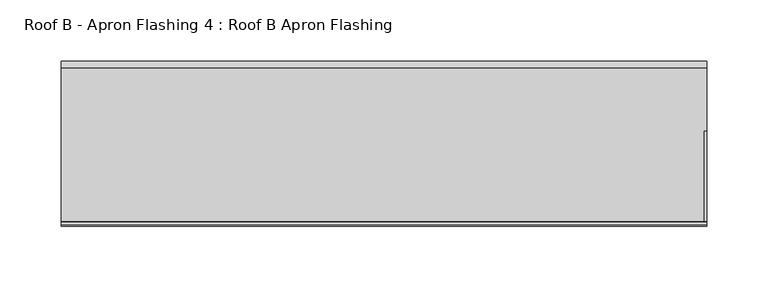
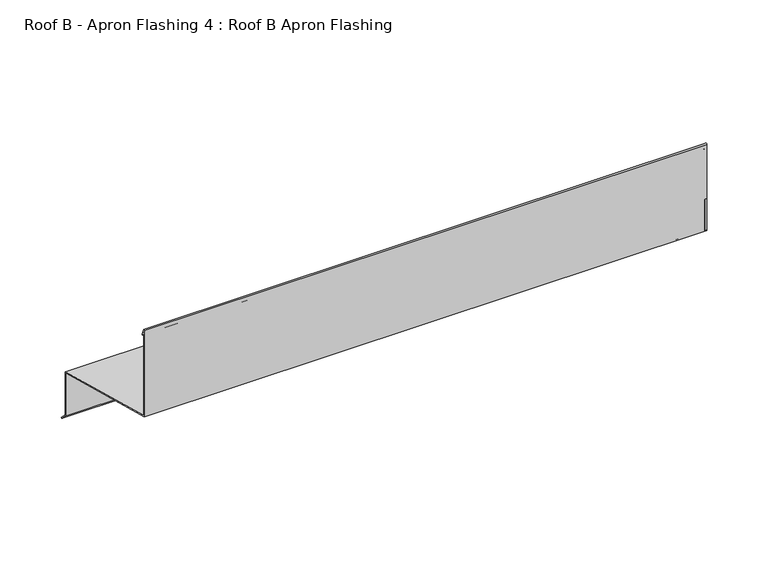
"""IFC4 building model written with IfcOpenShell, lengths in millimetres: proxy geometry, Roof B - Apron Flashing 4 : Roof B Apron Flashing."""

from ifc_helpers import new_model, si_unit, point, frame, frame_2d, origin, place, context, project, spatial, polyline, circle_curve, trimmed, segment, composite_curve, outline, extrude, source, transform, mapped, element, save


def roof_b_apron_flashing_4_roof_b_apron_flashing_d52b1472(model_context):
    return source(origin(), model_context, "Body", "SweptSolid", [
        extrude(outline(polyline([(-26524.3073445, -388.7215885), (-26569.5553264, -376.5974283), (-26569.5553264, -333.9762204), (-26524.3073445, -346.1003806), (-26524.3073445, -388.7215885)])), frame((17549.7575627, 0.0, 0.0), z_axis=(1.0, 0.0, 0.0), x_axis=(0.0, 1.0, 0.0)), (0.0, 0.0, 1.0), 2.0),
        extrude(outline(polyline([(-26574.5553264, -331.6011982), (-26652.6803264, -310.6676676), (-26652.6803264, -279.7934577), (-26574.5553264, -300.7269884), (-26574.5553264, -331.6011982)])), frame((17549.7575627, 0.0, 0.0), z_axis=(1.0, 0.0, 0.0), x_axis=(0.0, 1.0, 0.0)), (0.0, 0.0, 1.0), 2.0),
        extrude(outline(composite_curve([segment(polyline([(-26523.3073445, -345.3330536), (-26523.3073445, -388.338713), (-26517.2767092, -394.3693483), (-26517.983816, -395.0764551), (-26524.3073445, -388.7529266), (-26524.3073445, -346.1003806), (-26652.6803264, -311.7029438), (-26652.6803264, -225.8538686)]), True, "CONTINUOUS"), segment(trimmed(circle_curve(frame_2d((-26652.0012822, -225.8538686)), 0.6790442), [point((-26652.6803264, -225.8538686))], [point((-26651.3716834, -225.5994942))], False, "CARTESIAN"), True, "CONTINUOUS"), segment(polyline([(-26651.3716834, -225.5994942), (-26648.9572286, -231.5754797)]), True, "CONTINUOUS"), segment(trimmed(circle_curve(frame_2d((-26649.4208205, -231.762783)), 0.5), [point((-26648.9572286, -231.5754797))], [point((-26649.8844124, -231.9500863))], False, "CARTESIAN"), True, "CONTINUOUS"), segment(polyline([(-26649.8844124, -231.9500863), (-26651.6803264, -227.5050431), (-26651.6803264, -310.9356168), (-26523.3073445, -345.3330536)]), True, "CONTINUOUS")], self_intersect=False)), frame((17022.8825627, 0.0, 0.0), z_axis=(1.0, 0.0, 0.0), x_axis=(0.0, 1.0, 0.0)), (0.0, 0.0, 1.0), 528.875),
    ])


if __name__ == "__main__":
    model = new_model("IFC4")
    model_context = context("Model", 3, world=origin())
    ifc_project = project(units=[si_unit("LENGTHUNIT", "METRE", prefix="MILLI")], contexts=[model_context])
    site = spatial("IfcSite", under=ifc_project)
    building = spatial("IfcBuilding", under=site)
    placement = place(None, origin())
    roof_b_apron_flashing_4_roof_b_apron_flashing_shape = roof_b_apron_flashing_4_roof_b_apron_flashing_d52b1472(model_context)
    element("IfcBuildingElementProxy", 1, Name="Roof B - Apron Flashing 4 : Roof B Apron Flashing", ObjectType="Roof B - Apron Flashing 4 : Roof B Apron Flashing", at=placement, inside=building, context=model_context, shape_type="MappedRepresentation", body=[
        mapped(roof_b_apron_flashing_4_roof_b_apron_flashing_shape, transform((0.0, 0.0, 0.0), x_axis=(1.0, 0.0, 0.0), y_axis=(0.0, 1.0, 0.0), z_axis=(0.0, 0.0, 1.0))),
    ])
    save(model, "model.ifc")
